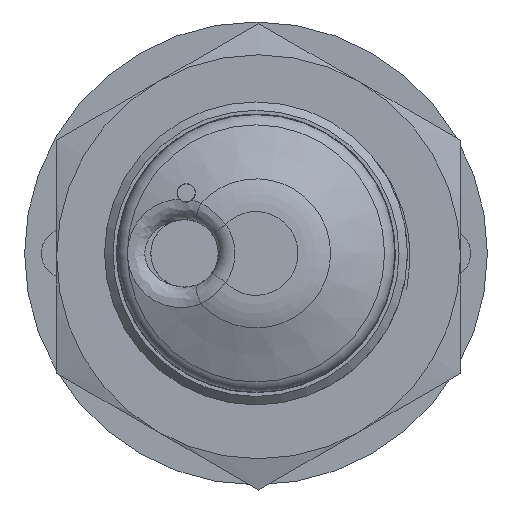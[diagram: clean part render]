
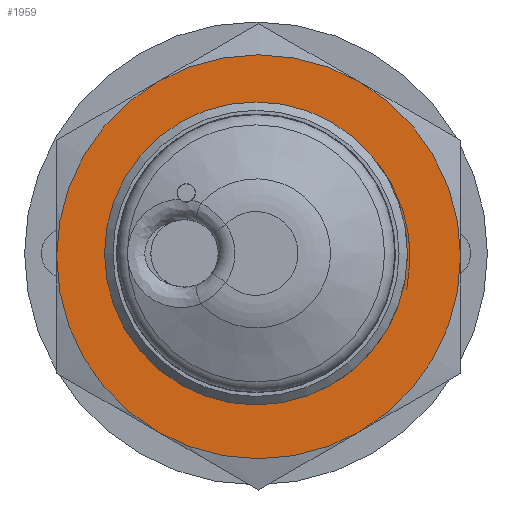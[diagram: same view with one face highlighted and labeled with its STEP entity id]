
A CAD part, left-side view. The second image highlights one B-rep face of the part: STEP entity #1959.
In plain terms, the highlighted planar face has unit normal (-1, 0, 0).
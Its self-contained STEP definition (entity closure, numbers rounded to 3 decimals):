
#180=PLANE('',#2072);
#211=CIRCLE('',#2068,12.);
#212=CIRCLE('',#2070,12.);
#213=CIRCLE('',#2073,8.459);
#214=CIRCLE('',#2074,12.);
#215=CIRCLE('',#2075,12.);
#216=CIRCLE('',#2076,12.);
#217=CIRCLE('',#2077,12.);
#287=ORIENTED_EDGE('',*,*,#651,.F.);
#288=ORIENTED_EDGE('',*,*,#652,.F.);
#289=ORIENTED_EDGE('',*,*,#653,.F.);
#290=ORIENTED_EDGE('',*,*,#654,.F.);
#291=ORIENTED_EDGE('',*,*,#655,.F.);
#292=ORIENTED_EDGE('',*,*,#646,.T.);
#293=ORIENTED_EDGE('',*,*,#643,.T.);
#643=EDGE_CURVE('',#825,#826,#211,.F.);
#646=EDGE_CURVE('',#828,#825,#212,.F.);
#651=EDGE_CURVE('',#832,#832,#213,.T.);
#652=EDGE_CURVE('',#833,#826,#214,.T.);
#653=EDGE_CURVE('',#834,#833,#215,.T.);
#654=EDGE_CURVE('',#835,#834,#216,.T.);
#655=EDGE_CURVE('',#828,#835,#217,.T.);
#825=VERTEX_POINT('',#2574);
#826=VERTEX_POINT('',#2579);
#828=VERTEX_POINT('',#2587);
#832=VERTEX_POINT('',#2609);
#833=VERTEX_POINT('',#2611);
#834=VERTEX_POINT('',#2613);
#835=VERTEX_POINT('',#2615);
#1028=EDGE_LOOP('',(#287));
#1029=EDGE_LOOP('',(#288,#289,#290,#291,#292,#293));
#1152=FACE_BOUND('',#1028,.T.);
#1153=FACE_BOUND('',#1029,.T.);
#1959=ADVANCED_FACE('',(#1152,#1153),#180,.T.);
#2068=AXIS2_PLACEMENT_3D('',#2580,#2222,#2223);
#2070=AXIS2_PLACEMENT_3D('',#2592,#2226,#2227);
#2072=AXIS2_PLACEMENT_3D('',#2607,#2232,#2233);
#2073=AXIS2_PLACEMENT_3D('',#2608,#2234,#2235);
#2074=AXIS2_PLACEMENT_3D('',#2610,#2236,#2237);
#2075=AXIS2_PLACEMENT_3D('',#2612,#2238,#2239);
#2076=AXIS2_PLACEMENT_3D('',#2614,#2240,#2241);
#2077=AXIS2_PLACEMENT_3D('',#2616,#2242,#2243);
#2222=DIRECTION('',(1.,0.,0.));
#2223=DIRECTION('',(0.,0.,-1.));
#2226=DIRECTION('',(1.,0.,0.));
#2227=DIRECTION('',(0.,0.,-1.));
#2232=DIRECTION('',(-1.,0.,0.));
#2233=DIRECTION('',(0.,0.,1.));
#2234=DIRECTION('',(-1.,0.,0.));
#2235=DIRECTION('',(0.,0.,1.));
#2236=DIRECTION('',(1.,0.,0.));
#2237=DIRECTION('',(0.,0.,-1.));
#2238=DIRECTION('',(1.,0.,0.));
#2239=DIRECTION('',(0.,0.,-1.));
#2240=DIRECTION('',(1.,0.,0.));
#2241=DIRECTION('',(0.,0.,-1.));
#2242=DIRECTION('',(1.,0.,0.));
#2243=DIRECTION('',(0.,0.,-1.));
#2574=CARTESIAN_POINT('',(-2.,5.845,10.192));
#2579=CARTESIAN_POINT('',(-2.,11.845,-0.2));
#2580=CARTESIAN_POINT('',(-2.,-0.155,-0.2));
#2587=CARTESIAN_POINT('',(-2.,-6.155,10.192));
#2592=CARTESIAN_POINT('',(-2.,-0.155,-0.2));
#2607=CARTESIAN_POINT('',(-2.,12.445,14.349));
#2608=CARTESIAN_POINT('',(-2.,0.,0.));
#2609=CARTESIAN_POINT('',(-2.,0.,8.459));
#2610=CARTESIAN_POINT('',(-2.,-0.155,-0.2));
#2611=CARTESIAN_POINT('',(-2.,5.845,-10.592));
#2612=CARTESIAN_POINT('',(-2.,-0.155,-0.2));
#2613=CARTESIAN_POINT('',(-2.,-6.155,-10.592));
#2614=CARTESIAN_POINT('',(-2.,-0.155,-0.2));
#2615=CARTESIAN_POINT('',(-2.,-12.155,-0.2));
#2616=CARTESIAN_POINT('',(-2.,-0.155,-0.2));
